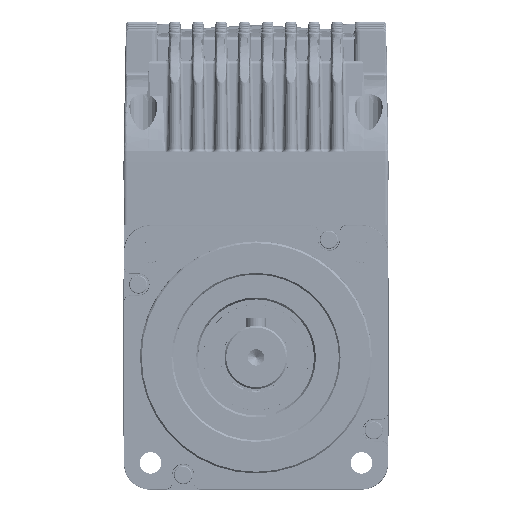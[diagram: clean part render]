
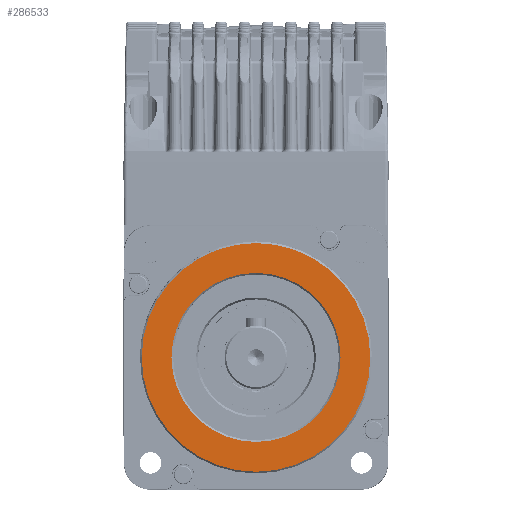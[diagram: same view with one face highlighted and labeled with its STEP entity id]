
A CAD part, front view. The second image highlights one B-rep face of the part: STEP entity #286533.
In plain terms, the highlighted planar face has unit normal (0, -1, 0).
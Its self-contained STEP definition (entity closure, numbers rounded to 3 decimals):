
#286369=AXIS2_PLACEMENT_3D('Circle Axis2P3D',#286367,#286368,$) ;
#286376=AXIS2_PLACEMENT_3D('Circle Axis2P3D',#286374,#286375,$) ;
#286409=AXIS2_PLACEMENT_3D('Circle Axis2P3D',#286407,#286408,$) ;
#286416=AXIS2_PLACEMENT_3D('Circle Axis2P3D',#286414,#286415,$) ;
#286491=AXIS2_PLACEMENT_3D('Plane Axis2P3D',#286488,#286489,#286490) ;
#286501=AXIS2_PLACEMENT_3D('Circle Axis2P3D',#286499,#286500,$) ;
#286510=AXIS2_PLACEMENT_3D('Circle Axis2P3D',#286508,#286509,$) ;
#286517=AXIS2_PLACEMENT_3D('Circle Axis2P3D',#286515,#286516,$) ;
#286524=AXIS2_PLACEMENT_3D('Circle Axis2P3D',#286522,#286523,$) ;
#286364=CARTESIAN_POINT('Vertex',(0.,-1.36,34.5)) ;
#286367=CARTESIAN_POINT('Axis2P3D Location',(0.,-1.36,0.)) ;
#286371=CARTESIAN_POINT('Vertex',(34.5,-1.36,0.)) ;
#286374=CARTESIAN_POINT('Axis2P3D Location',(0.,-1.36,0.)) ;
#286378=CARTESIAN_POINT('Vertex',(0.,-1.36,-34.5)) ;
#286407=CARTESIAN_POINT('Axis2P3D Location',(0.,-1.36,0.)) ;
#286411=CARTESIAN_POINT('Vertex',(-34.5,-1.36,0.)) ;
#286414=CARTESIAN_POINT('Axis2P3D Location',(0.,-1.36,0.)) ;
#286488=CARTESIAN_POINT('Axis2P3D Location',(0.,-1.36,25.)) ;
#286499=CARTESIAN_POINT('Axis2P3D Location',(0.,-1.36,0.)) ;
#286503=CARTESIAN_POINT('Vertex',(25.5,-1.36,0.)) ;
#286505=CARTESIAN_POINT('Vertex',(0.,-1.36,-25.5)) ;
#286508=CARTESIAN_POINT('Axis2P3D Location',(0.,-1.36,0.)) ;
#286512=CARTESIAN_POINT('Vertex',(-25.5,-1.36,0.)) ;
#286515=CARTESIAN_POINT('Axis2P3D Location',(0.,-1.36,0.)) ;
#286519=CARTESIAN_POINT('Vertex',(0.,-1.36,25.5)) ;
#286522=CARTESIAN_POINT('Axis2P3D Location',(0.,-1.36,0.)) ;
#286368=DIRECTION('Axis2P3D Direction',(0.,1.,0.)) ;
#286375=DIRECTION('Axis2P3D Direction',(0.,1.,0.)) ;
#286408=DIRECTION('Axis2P3D Direction',(0.,1.,0.)) ;
#286415=DIRECTION('Axis2P3D Direction',(0.,1.,0.)) ;
#286489=DIRECTION('Axis2P3D Direction',(0.,-1.,0.)) ;
#286490=DIRECTION('Axis2P3D XDirection',(0.,0.,-1.)) ;
#286500=DIRECTION('Axis2P3D Direction',(0.,-1.,0.)) ;
#286509=DIRECTION('Axis2P3D Direction',(0.,-1.,0.)) ;
#286516=DIRECTION('Axis2P3D Direction',(0.,-1.,0.)) ;
#286523=DIRECTION('Axis2P3D Direction',(0.,-1.,0.)) ;
#286494=ORIENTED_EDGE('',*,*,#286373,.T.) ;
#286495=ORIENTED_EDGE('',*,*,#286418,.T.) ;
#286496=ORIENTED_EDGE('',*,*,#286413,.T.) ;
#286497=ORIENTED_EDGE('',*,*,#286380,.T.) ;
#286528=ORIENTED_EDGE('',*,*,#286507,.T.) ;
#286529=ORIENTED_EDGE('',*,*,#286514,.T.) ;
#286530=ORIENTED_EDGE('',*,*,#286521,.T.) ;
#286531=ORIENTED_EDGE('',*,*,#286526,.T.) ;
#286532=FACE_BOUND('',#286527,.T.) ;
#286533=ADVANCED_FACE('N33250',(#286498,#286532),#286492,.T.) ;
#286370=CIRCLE('generated circle',#286369,34.5) ;
#286377=CIRCLE('generated circle',#286376,34.5) ;
#286410=CIRCLE('generated circle',#286409,34.5) ;
#286417=CIRCLE('generated circle',#286416,34.5) ;
#286502=CIRCLE('generated circle',#286501,25.5) ;
#286511=CIRCLE('generated circle',#286510,25.5) ;
#286518=CIRCLE('generated circle',#286517,25.5) ;
#286525=CIRCLE('generated circle',#286524,25.5) ;
#286373=EDGE_CURVE('',#286372,#286365,#286370,.F.) ;
#286380=EDGE_CURVE('',#286379,#286372,#286377,.F.) ;
#286413=EDGE_CURVE('',#286412,#286379,#286410,.F.) ;
#286418=EDGE_CURVE('',#286365,#286412,#286417,.F.) ;
#286507=EDGE_CURVE('',#286504,#286506,#286502,.F.) ;
#286514=EDGE_CURVE('',#286506,#286513,#286511,.F.) ;
#286521=EDGE_CURVE('',#286513,#286520,#286518,.F.) ;
#286526=EDGE_CURVE('',#286520,#286504,#286525,.F.) ;
#286493=EDGE_LOOP('',(#286494,#286495,#286496,#286497)) ;
#286527=EDGE_LOOP('',(#286528,#286529,#286530,#286531)) ;
#286498=FACE_OUTER_BOUND('',#286493,.T.) ;
#286492=PLANE('Plane',#286491) ;
#286365=VERTEX_POINT('',#286364) ;
#286372=VERTEX_POINT('',#286371) ;
#286379=VERTEX_POINT('',#286378) ;
#286412=VERTEX_POINT('',#286411) ;
#286504=VERTEX_POINT('',#286503) ;
#286506=VERTEX_POINT('',#286505) ;
#286513=VERTEX_POINT('',#286512) ;
#286520=VERTEX_POINT('',#286519) ;
